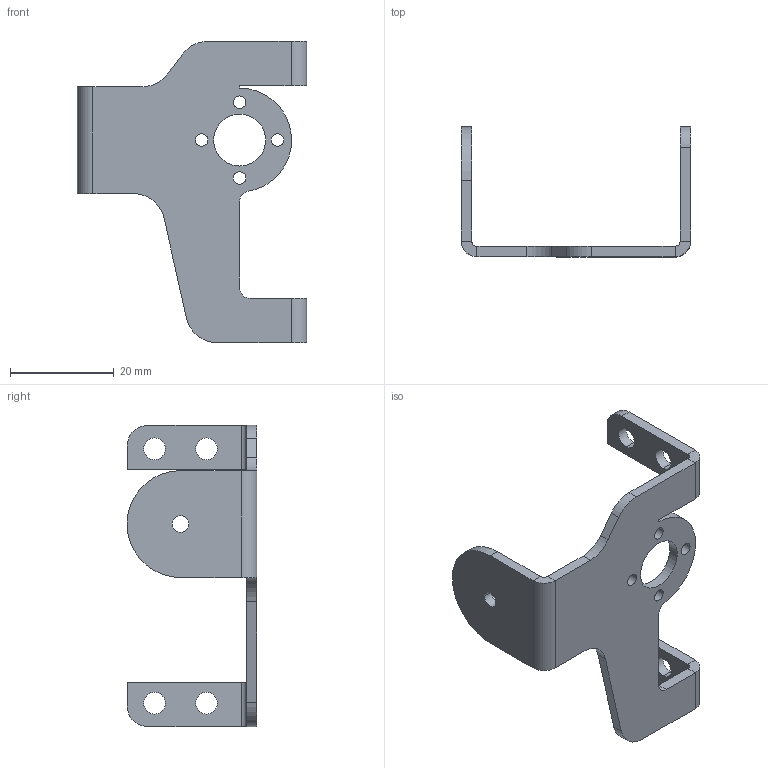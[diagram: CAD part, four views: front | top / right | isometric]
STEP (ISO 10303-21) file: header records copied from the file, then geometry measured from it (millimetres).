
FILE_DESCRIPTION (( 'STEP AP214' ), '1' );
FILE_NAME ('Pan Mount.STEP', '2024-06-24T11:55:00', ( '' ), ( '' ), 'SwSTEP 2.0', 'SolidWorks 2023', '' );
FILE_SCHEMA (( 'AUTOMOTIVE_DESIGN' ));
Length unit declared in the file: millimetre
Products named in the file (1): Pan Mount
Bounding box: 44.15 x 25 x 58 mm (x, y, z)
Volume: 4210.9 mm3; surface area: 5152.8 mm2
Topology: 1 solids, 1 shells, 70 faces, 180 edges, 112 vertices
Faces by surface type: cylinder 38, plane 32
Entity records: 2191 total; most frequent: DIRECTION 398, CARTESIAN_POINT 363, ORIENTED_EDGE 360, EDGE_CURVE 180, AXIS2_PLACEMENT_3D 147, VERTEX_POINT 112, LINE 104, VECTOR 104
